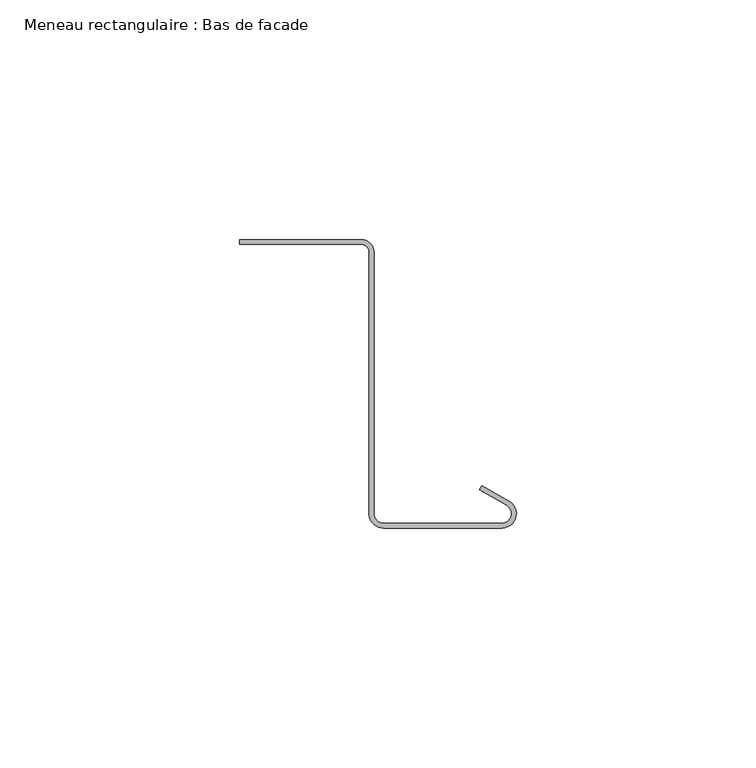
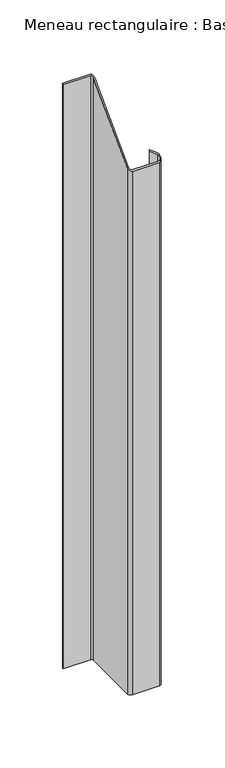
"""IFC4 building model written with IfcOpenShell, lengths in millimetres: member geometry, Meneau rectangulaire : Bas de facade."""

from ifc_helpers import new_model, si_unit, frame, origin, place, context, project, spatial, polyline, circle_curve, ellipse_curve, source, transform, mapped, element, save
from ifc_brep_helpers import plane_surface, cylinder_surface, revolved_surface, advanced_brep


def meneau_rectangulaire_bas_de_facade_100d68d3(model_context):
    return source(origin(), model_context, "Body", "AdvancedBrep", [
        advanced_brep(
        [(-32.4584179, 2.9588923, -568.0), (-29.7143802, 0.3898824, -568.0), (-29.7143802, -54.5495817, -568.0), (-27.735368, -56.2605998, -568.0), (-3.0, -56.2605998, -568.0), (-2.0, -52.528549, -568.0), (-7.6638061, -49.258549, -568.0), (-7.1638061, -48.3925235, -568.0), (-1.5, -51.6625235, -568.0), (-3.0, -57.2605998, -568.0), (-27.735368, -57.2605998, -568.0), (-30.7239521, -54.522067, -568.0), (-30.7239521, 0.4415475, -568.0), (-32.4584179, 1.9588923, -568.0), (-57.8548383, 1.9588923, -568.0), (-57.8548383, 2.9588923, -568.0), (-57.8548383, 2.9588923, 2.9588923), (-32.4584179, 2.9588923, 2.9588923), (-57.8548383, 1.9588923, 1.9588923), (-32.4584179, 1.9588923, 1.9588923), (-30.7239521, 0.4415475, 0.4415475), (-30.7239521, -54.522067, -54.522067), (-27.735368, -57.2605998, -57.2605998), (-3.0, -57.2605998, -57.2605998), (-1.5, -51.6625235, -51.6625235), (-7.1638061, -48.3925235, -48.3925235), (-7.6638061, -49.258549, -49.258549), (-2.0, -52.528549, -52.528549), (-3.0, -56.2605998, -56.2605998), (-27.735368, -56.2605998, -56.2605998), (-29.7143802, -54.5495817, -54.5495817), (-29.7143802, 0.3898824, 0.3898824)],
        [
            (0, 1, circle_curve(frame((-32.4584179, 0.2088923, -568.0), z_axis=(0.0, 0.0, -1.0), x_axis=(0.0, 1.0, 0.0)), 2.75)),
            (1, 2),
            (2, 3, circle_curve(frame((-27.735368, -54.2605998, -568.0), z_axis=(0.0, 0.0, 1.0), x_axis=(-0.9961946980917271, -0.08715574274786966, 0.0)), 2.0)),
            (3, 4),
            (4, 5, circle_curve(frame((-3.0, -54.2605998, -568.0), z_axis=(0.0, 0.0, 1.0), x_axis=(0.0, -1.0, 0.0)), 2.0)),
            (5, 6),
            (6, 7),
            (7, 8),
            (8, 9, circle_curve(frame((-3.0, -54.2605998, -568.0), z_axis=(0.0, 0.0, -1.0), x_axis=(0.0, -1.0, 0.0)), 3.0)),
            (9, 10),
            (10, 11, circle_curve(frame((-27.735368, -54.2605998, -568.0), z_axis=(0.0, 0.0, -1.0), x_axis=(-0.9961946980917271, -0.08715574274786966, 0.0)), 3.0)),
            (11, 12),
            (12, 13, circle_curve(frame((-32.4584179, 0.2088923, -568.0), z_axis=(0.0, 0.0, 1.0), x_axis=(0.0, 1.0, 0.0)), 1.75)),
            (13, 14),
            (14, 15),
            (15, 0),
            (16, 17),
            (17, 0),
            (15, 16),
            (18, 16),
            (14, 18),
            (19, 18),
            (13, 19),
            (20, 19, ellipse_curve(frame((-32.4584179, 0.2088923, 0.2088923), z_axis=(0.0, -0.7071067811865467, 0.7071067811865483), x_axis=(0.0, -0.7071067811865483, -0.7071067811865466)), 2.4748737, 1.75)),
            (12, 20),
            (21, 20),
            (11, 21),
            (22, 21, ellipse_curve(frame((-27.735368, -54.2605998, -54.2605998), z_axis=(0.0, 0.7071067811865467, -0.7071067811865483), x_axis=(0.0, 0.7071067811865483, 0.7071067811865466)), 4.2426407, 3.0)),
            (10, 22),
            (23, 22),
            (9, 23),
            (24, 23, ellipse_curve(frame((-3.0, -54.2605998, -54.2605998), z_axis=(0.0, 0.7071067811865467, -0.7071067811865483), x_axis=(0.0, 0.7071067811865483, 0.7071067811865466)), 4.2426407, 3.0)),
            (8, 24),
            (25, 24),
            (7, 25),
            (26, 25),
            (6, 26),
            (27, 26),
            (5, 27),
            (28, 27, ellipse_curve(frame((-3.0, -54.2605998, -54.2605998), z_axis=(0.0, -0.7071067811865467, 0.7071067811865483), x_axis=(0.0, -0.7071067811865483, -0.7071067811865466)), 2.8284271, 2.0)),
            (4, 28),
            (29, 28),
            (3, 29),
            (30, 29, ellipse_curve(frame((-27.735368, -54.2605998, -54.2605998), z_axis=(0.0, -0.7071067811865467, 0.7071067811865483), x_axis=(0.0, -0.7071067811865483, -0.7071067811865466)), 2.8284271, 2.0)),
            (2, 30),
            (31, 30),
            (1, 31),
            (17, 31, ellipse_curve(frame((-32.4584179, 0.2088923, 0.2088923), z_axis=(0.0, 0.7071067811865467, -0.7071067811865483), x_axis=(0.0, 0.7071067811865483, 0.7071067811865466)), 3.8890873, 2.75)),
        ],
        [
            plane_surface(frame((0.0, -63.8351035, -568.0), z_axis=(0.0, 0.0, -1.0), x_axis=(-1.0, 0.0, 0.0))),
            plane_surface(frame((-32.4584179, 2.9588923, 0.0), z_axis=(0.0, 1.0, 0.0), x_axis=(0.0, 0.0, -1.0))),
            plane_surface(frame((-57.8548383, 2.9588923, 0.0), z_axis=(-1.0, 0.0, 0.0), x_axis=(0.0, 0.0, -1.0))),
            plane_surface(frame((-57.8548383, 1.9588923, 0.0), z_axis=(0.0, -1.0, 0.0), x_axis=(0.0, 0.0, -1.0))),
            revolved_surface(polyline([(-32.4584179, 1.9588923, -568.0), (-32.4584179, 1.9588923, 1.9588923)]), (-32.4584179, 0.2088923, 0.0), (0.0, 0.0, -1.0)),
            plane_surface(frame((-30.7239521, 0.4415475, 0.0), z_axis=(-1.0, 0.0, 0.0), x_axis=(0.0, 0.0, -1.0))),
            cylinder_surface(frame((-27.735368, -54.2605998, 0.0), z_axis=(0.0, 0.0, 1.0000000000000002), x_axis=(-0.9961946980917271, -0.08715574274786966, 0.0)), 3.0),
            plane_surface(frame((-27.735368, -57.2605998, 0.0), z_axis=(0.0, -1.0, 0.0), x_axis=(0.0, 0.0, -1.0))),
            cylinder_surface(frame((-3.0, -54.2605998, 0.0), z_axis=(0.0, 0.0, 1.0), x_axis=(0.0, -1.0, 0.0)), 3.0),
            plane_surface(frame((-1.5, -51.6625235, 0.0), z_axis=(0.5000000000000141, 0.8660254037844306, 0.0), x_axis=(0.0, 0.0, -1.0))),
            plane_surface(frame((-7.1638061, -48.3925235, 0.0), z_axis=(-0.8660254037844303, 0.5000000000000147, 0.0), x_axis=(0.0, 0.0, -1.0))),
            plane_surface(frame((-7.6638061, -49.258549, 0.0), z_axis=(-0.500000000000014, -0.8660254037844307, 0.0), x_axis=(0.0, 0.0, -1.0))),
            revolved_surface(polyline([(-3.0, -56.2605998, -568.0), (-3.0, -56.2605998, -52.2605998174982)]), (-3.0, -54.2605998, 0.0), (0.0, 0.0, -1.0)),
            plane_surface(frame((-3.0, -56.2605998, 0.0), z_axis=(0.0, 1.0, 0.0), x_axis=(0.0, 0.0, -1.0))),
            revolved_surface(polyline([(-29.727757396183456, -54.434911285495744, -568.0000000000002), (-29.727757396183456, -54.434911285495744, -52.26059981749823)]), (-27.735368, -54.2605998, 0.0), (0.0, 0.0, -1.0000000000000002)),
            plane_surface(frame((-29.7143802, -54.5495817, 0.0), z_axis=(1.0, 0.0, 0.0), x_axis=(0.0, 0.0, -1.0))),
            cylinder_surface(frame((-32.4584179, 0.2088923, 0.0), z_axis=(0.0, 0.0, 1.0), x_axis=(0.0, 1.0, 0.0)), 2.75),
            plane_surface(frame((304.8, 0.0, 0.0), z_axis=(0.0, -0.7071067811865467, 0.7071067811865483), x_axis=(0.0, -0.7071067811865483, -0.7071067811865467))),
        ],
        [
            (0, [[1, 2, 3, 4, 5, 6, 7, 8, 9, 10, 11, 12, 13, 14, 15, 16]]),
            (1, [[17, 18, -16, 19]]),
            (2, [[20, -19, -15, 21]]),
            (3, [[22, -21, -14, 23]]),
            (4, [[24, -23, -13, 25]]),
            (5, [[26, -25, -12, 27]]),
            (6, [[28, -27, -11, 29]]),
            (7, [[30, -29, -10, 31]]),
            (8, [[32, -31, -9, 33]]),
            (9, [[34, -33, -8, 35]]),
            (10, [[36, -35, -7, 37]]),
            (11, [[38, -37, -6, 39]]),
            (12, [[40, -39, -5, 41]]),
            (13, [[42, -41, -4, 43]]),
            (14, [[44, -43, -3, 45]]),
            (15, [[46, -45, -2, 47]]),
            (16, [[48, -47, -1, -18]]),
            (17, [[-17, -20, -22, -24, -26, -28, -30, -32, -34, -36, -38, -40, -42, -44, -46, -48]]),
        ],
    ),
    ])


if __name__ == "__main__":
    model = new_model("IFC4")
    model_context = context("Model", 3, world=origin())
    ifc_project = project(units=[si_unit("LENGTHUNIT", "METRE", prefix="MILLI")], contexts=[model_context])
    site = spatial("IfcSite", under=ifc_project)
    building = spatial("IfcBuilding", under=site)
    placement = place(None, origin())
    meneau_rectangulaire_bas_de_facade_shape = meneau_rectangulaire_bas_de_facade_100d68d3(model_context)
    element("IfcMember", 1, ObjectType="Meneau rectangulaire : Bas de facade", at=placement, inside=building, context=model_context, shape_type="MappedRepresentation", body=[
        mapped(meneau_rectangulaire_bas_de_facade_shape, transform((0.0, 0.0, 0.0), x_axis=(1.0, 0.0, 0.0), y_axis=(0.0, 1.0, 0.0), z_axis=(0.0, 0.0, 1.0))),
    ])
    save(model, "model.ifc")
